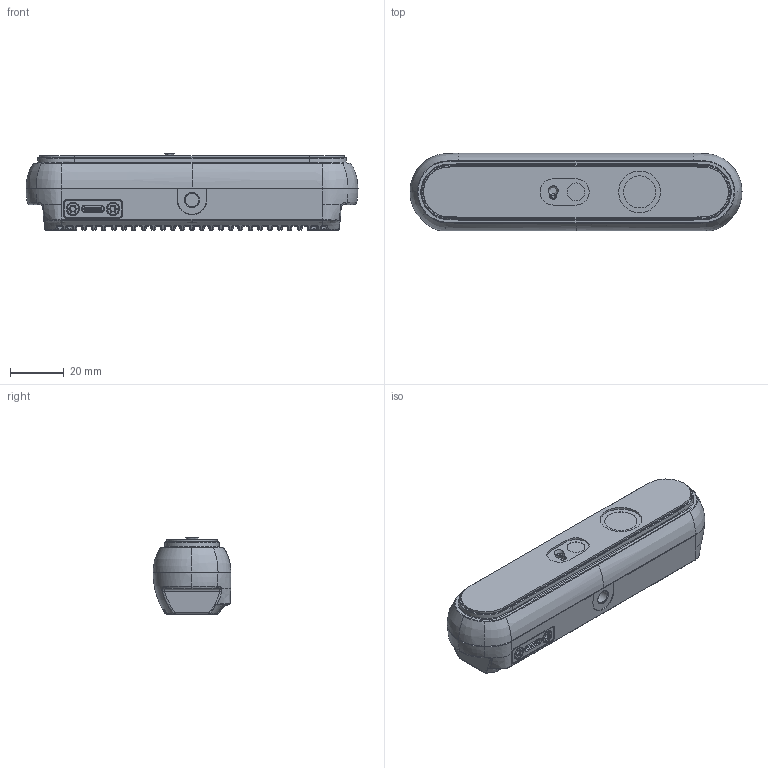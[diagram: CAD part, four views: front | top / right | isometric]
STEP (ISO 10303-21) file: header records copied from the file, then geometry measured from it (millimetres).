
FILE_DESCRIPTION(/* description */ (''),/* implementation_level */ '2;1');
FILE_NAME(/* name */ '117891.stp',/* time_stamp */ '2026-06-15T08:43:39+02:00',/* author */ (''),/* organization */ (''),/* preprocessor_version */ 'ST-DEVELOPER v20',/* originating_system */ 'Autodesk Inventor 2024',/* authorisation */ '');
FILE_SCHEMA (('CONFIG_CONTROL_DESIGN'));
Products named in the file (1): 117891
Bounding box: 124.02 x 29.03 x 28.41 mm (x, y, z)
Volume: 80121.2 mm3; surface area: 17509.4 mm2
Topology: 1 solids, 10 shells, 3486 faces, 10043 edges, 6468 vertices
Faces by surface type: plane 1757, cylinder 1006, bspline 572, torus 90, cone 59, sphere 2
Full cylindrical faces by diameter (mm): 0.4 x2, 0.52 x10, 0.53 x2, 2 x2, 2.65 x2, 3.933 x2, 4.4 x2, 4.5 x2, 5 x1, 6.7 x1, 12 x1, 15.6 x1
Entity records: 186892 total; most frequent: CARTESIAN_POINT 94827, ORIENTED_EDGE 20060, DIRECTION 16943, EDGE_CURVE 10036, VERTEX_POINT 6468, LINE 5743, VECTOR 5743, AXIS2_PLACEMENT_3D 5600
